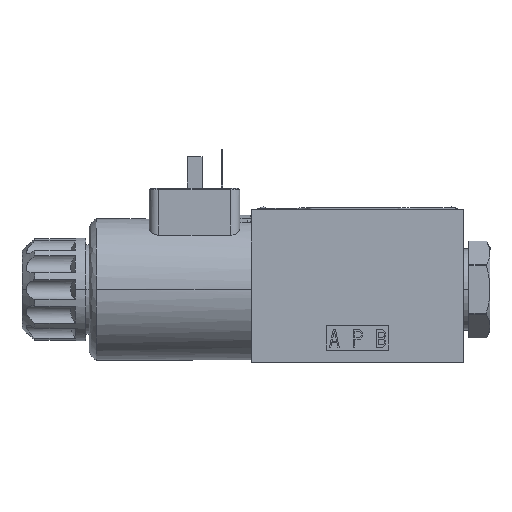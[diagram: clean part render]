
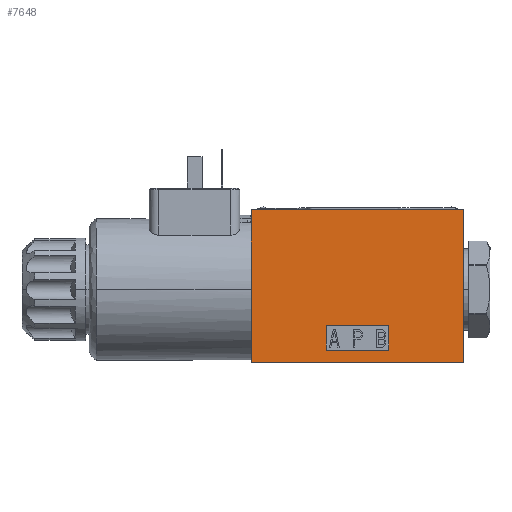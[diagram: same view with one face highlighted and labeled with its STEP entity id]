
A CAD part, top view. The second image highlights one B-rep face of the part: STEP entity #7648.
In plain terms, the highlighted planar face has unit normal (0, 0, 1).
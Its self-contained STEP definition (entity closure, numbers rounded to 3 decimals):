
#119 = VERTEX_POINT ( 'NONE', #14914 ) ;
#906 = CARTESIAN_POINT ( 'NONE',  ( -34., 2.602, 22.5 ) ) ;
#1473 = ORIENTED_EDGE ( 'NONE', *, *, #5650, .F. ) ;
#1543 = CARTESIAN_POINT ( 'NONE',  ( -10., -19.5, 22.5 ) ) ;
#1633 = EDGE_CURVE ( 'NONE', #5194, #119, #20160, .T. ) ;
#1765 = CARTESIAN_POINT ( 'NONE',  ( 0., -19.5, 22.5 ) ) ;
#1986 = LINE ( 'NONE', #4800, #10408 ) ;
#2061 = ORIENTED_EDGE ( 'NONE', *, *, #15987, .T. ) ;
#2645 = VECTOR ( 'NONE', #8108, 1000. ) ;
#2725 = EDGE_CURVE ( 'NONE', #119, #13447, #16418, .T. ) ;
#3356 = VERTEX_POINT ( 'NONE', #8807 ) ;
#3470 = VERTEX_POINT ( 'NONE', #9198 ) ;
#3891 = CARTESIAN_POINT ( 'NONE',  ( 34., -23.5, 22.5 ) ) ;
#4009 = FACE_BOUND ( 'NONE', #18723, .T. ) ;
#4395 = ORIENTED_EDGE ( 'NONE', *, *, #11766, .T. ) ;
#4744 = DIRECTION ( 'NONE',  ( -1., 0., 0. ) ) ;
#4800 = CARTESIAN_POINT ( 'NONE',  ( -34., 0., 22.5 ) ) ;
#4901 = DIRECTION ( 'NONE',  ( -1., 0., 0. ) ) ;
#5162 = CARTESIAN_POINT ( 'NONE',  ( -34., 25.5, 22.5 ) ) ;
#5194 = VERTEX_POINT ( 'NONE', #12077 ) ;
#5492 = LINE ( 'NONE', #1765, #13904 ) ;
#5622 = ORIENTED_EDGE ( 'NONE', *, *, #10021, .F. ) ;
#5650 = EDGE_CURVE ( 'NONE', #13210, #5194, #17418, .T. ) ;
#5883 = VERTEX_POINT ( 'NONE', #14035 ) ;
#6578 = CARTESIAN_POINT ( 'NONE',  ( 0., -11.5, 22.5 ) ) ;
#6782 = DIRECTION ( 'NONE',  ( 1., 0., 0. ) ) ;
#7205 = VERTEX_POINT ( 'NONE', #18409 ) ;
#7347 = LINE ( 'NONE', #18287, #11564 ) ;
#7396 = EDGE_CURVE ( 'NONE', #7205, #13191, #19101, .T. ) ;
#7648 = ADVANCED_FACE ( 'NONE', ( #4009, #16128 ), #11986, .T. ) ;
#7996 = EDGE_LOOP ( 'NONE', ( #13054, #1473, #4395, #18612, #5622, #11240 ) ) ;
#8108 = DIRECTION ( 'NONE',  ( 1., 0., 0. ) ) ;
#8291 = LINE ( 'NONE', #5162, #20342 ) ;
#8807 = CARTESIAN_POINT ( 'NONE',  ( -10., -11.5, 22.5 ) ) ;
#8875 = CARTESIAN_POINT ( 'NONE',  ( 0., 0., 22.5 ) ) ;
#9198 = CARTESIAN_POINT ( 'NONE',  ( -34., -2.602, 22.5 ) ) ;
#10008 = VERTEX_POINT ( 'NONE', #1543 ) ;
#10021 = EDGE_CURVE ( 'NONE', #13447, #5883, #14296, .T. ) ;
#10151 = ORIENTED_EDGE ( 'NONE', *, *, #19375, .T. ) ;
#10300 = DIRECTION ( 'NONE',  ( 0., 1., 0. ) ) ;
#10408 = VECTOR ( 'NONE', #15865, 1000. ) ;
#10454 = DIRECTION ( 'NONE',  ( 1., 0., 0. ) ) ;
#10730 = VECTOR ( 'NONE', #12474, 1000. ) ;
#10826 = CARTESIAN_POINT ( 'NONE',  ( 10., 0., 22.5 ) ) ;
#11060 = CARTESIAN_POINT ( 'NONE',  ( -34., -23.5, 22.5 ) ) ;
#11240 = ORIENTED_EDGE ( 'NONE', *, *, #2725, .F. ) ;
#11368 = AXIS2_PLACEMENT_3D ( 'NONE', #8875, #19868, #10454 ) ;
#11564 = VECTOR ( 'NONE', #15339, 1000. ) ;
#11766 = EDGE_CURVE ( 'NONE', #13210, #3470, #1986, .T. ) ;
#11986 = PLANE ( 'NONE',  #11368 ) ;
#12077 = CARTESIAN_POINT ( 'NONE',  ( -34., 25.5, 22.5 ) ) ;
#12080 = ORIENTED_EDGE ( 'NONE', *, *, #17547, .T. ) ;
#12474 = DIRECTION ( 'NONE',  ( 0., -1., 0. ) ) ;
#12612 = EDGE_CURVE ( 'NONE', #5883, #3470, #8291, .T. ) ;
#13054 = ORIENTED_EDGE ( 'NONE', *, *, #1633, .F. ) ;
#13191 = VERTEX_POINT ( 'NONE', #19764 ) ;
#13210 = VERTEX_POINT ( 'NONE', #906 ) ;
#13447 = VERTEX_POINT ( 'NONE', #20391 ) ;
#13904 = VECTOR ( 'NONE', #4901, 1000. ) ;
#14035 = CARTESIAN_POINT ( 'NONE',  ( -34., -23.5, 22.5 ) ) ;
#14296 = LINE ( 'NONE', #11060, #17953 ) ;
#14914 = CARTESIAN_POINT ( 'NONE',  ( 34., 25.5, 22.5 ) ) ;
#14982 = DIRECTION ( 'NONE',  ( 0., -1., 0. ) ) ;
#15339 = DIRECTION ( 'NONE',  ( 0., 1., 0. ) ) ;
#15865 = DIRECTION ( 'NONE',  ( 0., -1., 0. ) ) ;
#15987 = EDGE_CURVE ( 'NONE', #3356, #7205, #18938, .T. ) ;
#16128 = FACE_OUTER_BOUND ( 'NONE', #7996, .T. ) ;
#16418 = LINE ( 'NONE', #3891, #20073 ) ;
#16693 = CARTESIAN_POINT ( 'NONE',  ( -34., 25.5, 22.5 ) ) ;
#17163 = VECTOR ( 'NONE', #10300, 1000. ) ;
#17418 = LINE ( 'NONE', #16693, #17163 ) ;
#17547 = EDGE_CURVE ( 'NONE', #13191, #10008, #5492, .T. ) ;
#17780 = DIRECTION ( 'NONE',  ( 0., 1., 0. ) ) ;
#17815 = CARTESIAN_POINT ( 'NONE',  ( 34., 25.5, 22.5 ) ) ;
#17953 = VECTOR ( 'NONE', #4744, 1000. ) ;
#18287 = CARTESIAN_POINT ( 'NONE',  ( -10., 0., 22.5 ) ) ;
#18409 = CARTESIAN_POINT ( 'NONE',  ( 10., -11.5, 22.5 ) ) ;
#18612 = ORIENTED_EDGE ( 'NONE', *, *, #12612, .F. ) ;
#18631 = ORIENTED_EDGE ( 'NONE', *, *, #7396, .T. ) ;
#18723 = EDGE_LOOP ( 'NONE', ( #18631, #12080, #10151, #2061 ) ) ;
#18938 = LINE ( 'NONE', #6578, #2645 ) ;
#19101 = LINE ( 'NONE', #10826, #10730 ) ;
#19375 = EDGE_CURVE ( 'NONE', #10008, #3356, #7347, .T. ) ;
#19764 = CARTESIAN_POINT ( 'NONE',  ( 10., -19.5, 22.5 ) ) ;
#19868 = DIRECTION ( 'NONE',  ( 0., 0., 1. ) ) ;
#20073 = VECTOR ( 'NONE', #14982, 1000. ) ;
#20160 = LINE ( 'NONE', #17815, #20222 ) ;
#20222 = VECTOR ( 'NONE', #6782, 1000. ) ;
#20342 = VECTOR ( 'NONE', #17780, 1000. ) ;
#20391 = CARTESIAN_POINT ( 'NONE',  ( 34., -23.5, 22.5 ) ) ;
